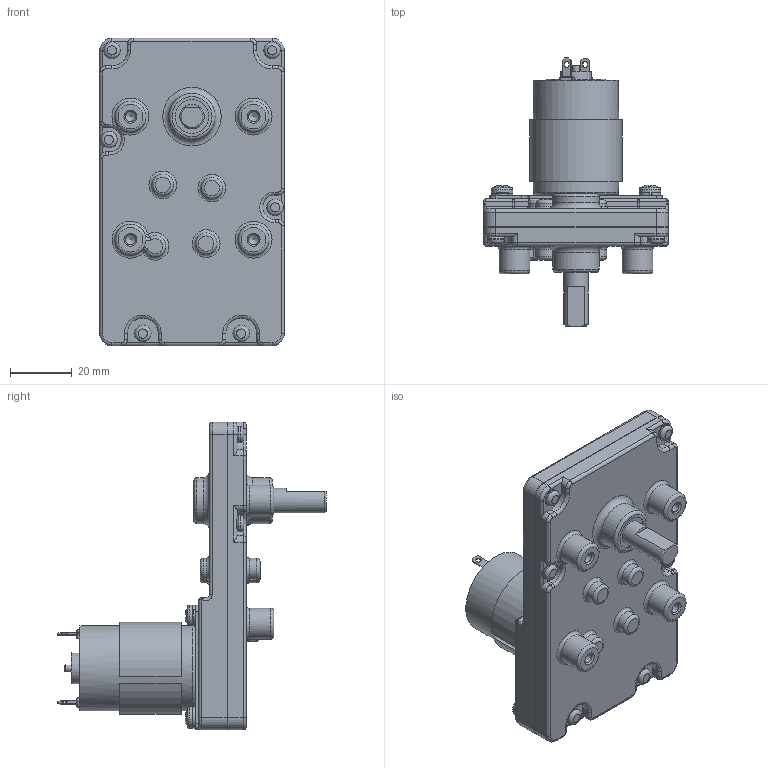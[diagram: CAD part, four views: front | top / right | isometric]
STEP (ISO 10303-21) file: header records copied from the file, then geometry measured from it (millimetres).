
FILE_DESCRIPTION(/* description */ (''),/* implementation_level */ '2;1');
FILE_NAME(/* name */ 'tp-3038#-FG.stp',/* time_stamp */ '2024-05-27T14:22:55+09:00',/* author */ ('user'),/* organization */ (''),/* preprocessor_version */ 'ST-DEVELOPER v20',/* originating_system */ 'Autodesk Inventor 2024',/* authorisation */ '');
FILE_SCHEMA (('AUTOMOTIVE_DESIGN { 1 0 10303 214 3 1 1 }'));
Length unit declared in the file: millimetre
Products named in the file (7): tp-3038#-FG-J00-24-1; RS-385PH(TP-3038); M4×10-WS000; CSPPNB2-ST-M4-10-1_CSPPNB2-ST-M4-10-1; CSPPNB2-ST-M4-10-2_CSPPNB2-ST-M4-10-2; FG; br0028
Assembly tree (7 placements, depth 3):
  tp-3038#-FG-J00-24-1
    RS-385PH(TP-3038)
    M4×10-WS000  x2
      CSPPNB2-ST-M4-10-1_CSPPNB2-ST-M4-10-1
      CSPPNB2-ST-M4-10-2_CSPPNB2-ST-M4-10-2
    FG
    br0028
Bounding box: 60 x 87.2 x 100 mm (x, y, z)
Volume: 108276.8 mm3; surface area: 30491.4 mm2
Topology: 7 solids, 7 shells, 577 faces, 1348 edges, 837 vertices
Faces by surface type: plane 225, cylinder 218, torus 90, bspline 21, cone 17, sphere 6
Full cylindrical faces by diameter (mm): 1.5 x1, 2 x6, 2.113 x2, 2.3 x2, 2.459 x6, 2.5 x1, 2.8 x2, 3.242 x6, 3.65 x2, 4 x4, 4.1 x4, 5.4 x6, 6 x2, 7 x8, 8 x1, 9 x2, 10 x8, 11 x2, 14 x1, 15 x2, 19 x1, 26.7 x1, 27.7 x1
Entity records: 16520 total; most frequent: CARTESIAN_POINT 3311, DIRECTION 2932, ORIENTED_EDGE 2510, EDGE_CURVE 1255, AXIS2_PLACEMENT_3D 1180, VERTEX_POINT 786, EDGE_LOOP 635, CIRCLE 627
